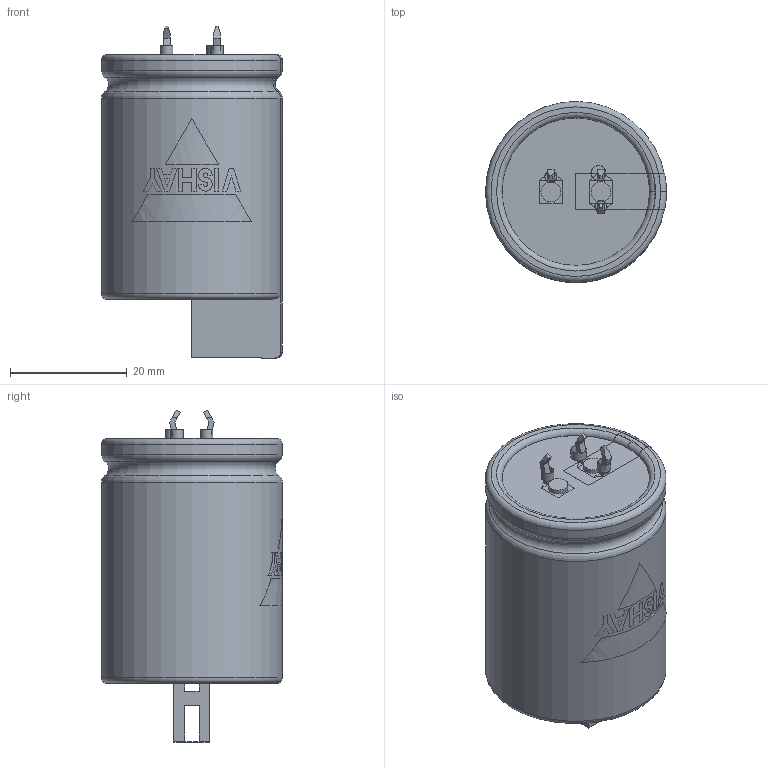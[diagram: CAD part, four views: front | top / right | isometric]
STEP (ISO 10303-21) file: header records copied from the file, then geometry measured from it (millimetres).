
FILE_DESCRIPTION(('FreeCAD Model'),'2;1');
FILE_NAME( 'C:/Users/Gebruiker/Documents/FreeCAD/SnapIn_30x40_3pin_4.0.step', '2020-11-12T21:14:00',('Author'),(''), 'Open CASCADE STEP processor 6.8','FreeCAD','Unknown');
FILE_SCHEMA(('AUTOMOTIVE_DESIGN_CC2 { 1 2 10303 214 -1 1 5 4 }'));
Length unit declared in the file: millimetre
Products named in the file (9): ASSEMBLY; TerminalPlus; Disc; BottomInsulation; Can3D; InkMinusBar; InkLogo; TerminalMinKP; PCBHolesKP
Assembly tree (8 placements, depth 2):
  ASSEMBLY
    TerminalPlus
    Disc
    BottomInsulation
    Can3D
    InkMinusBar
    InkLogo
    TerminalMinKP
    PCBHolesKP
Bounding box: 31.05 x 31.05 x 56.95 mm (x, y, z)
Volume: 5792.2 mm3; surface area: 14369.5 mm2
Topology: 16 solids, 21 shells, 213 faces, 541 edges, 353 vertices
Faces by surface type: plane 160, cylinder 31, torus 18, cone 4
Full cylindrical faces by diameter (mm): 2 x2, 2.1 x2, 2.5 x1, 2.6 x1, 3.4 x2, 24.8 x2, 25.3 x1, 31 x2
Entity records: 21997 total; most frequent: CARTESIAN_POINT 10068, DIRECTION 1849, ORIENTED_EDGE 1070, PCURVE 1070, DEFINITIONAL_REPRESENTATION 1070, LINE 1044, VECTOR 1044, EDGE_CURVE 539
